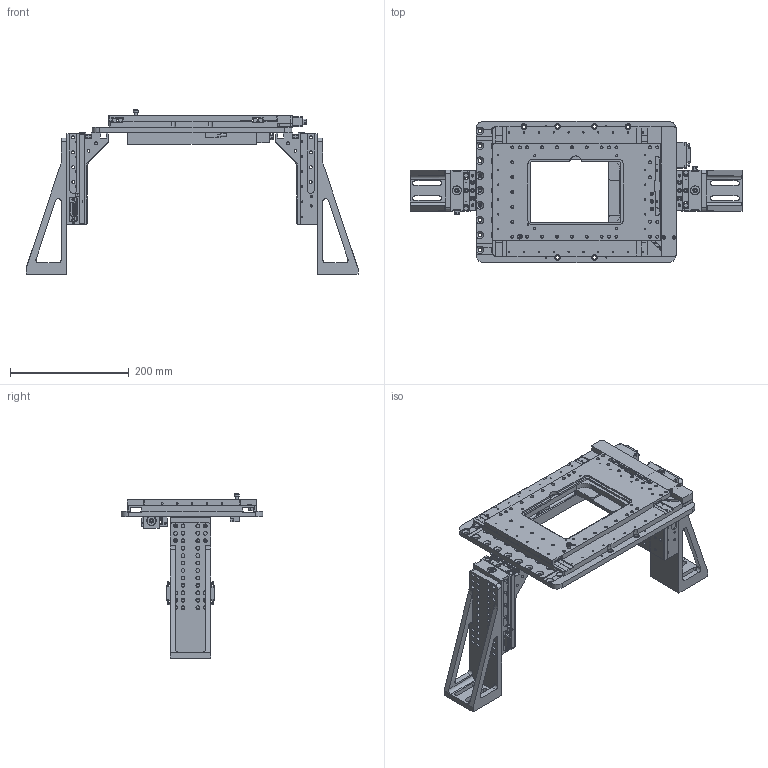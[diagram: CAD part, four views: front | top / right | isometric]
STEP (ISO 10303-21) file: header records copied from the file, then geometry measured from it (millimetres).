
FILE_DESCRIPTION (( 'STEP AP214' ), '1' );
FILE_NAME ('S551-22XXX WITH DUAL-LS-50-FTP-K2 (CATALOG MODEL).STEP', '2021-11-03T17:52:05', ( '' ), ( '' ), 'SwSTEP 2.0', 'SolidWorks 2020', '' );
FILE_SCHEMA (( 'AUTOMOTIVE_DESIGN' ));
Length unit declared in the file: inch
Products named in the file (1): S551-22XXX WITH DUAL-LS-50-FTP-K2 (CATALOG MODEL)
Bounding box: 558.17 x 238.25 x 276.22 mm (x, y, z)
Surface area: 641947.8 mm2 (no closed solid volume)
Topology: 0 solids, 103 shells, 1332 faces, 5145 edges, 3809 vertices
Faces by surface type: cylinder 653, plane 605, cone 66, bspline 8
Full cylindrical faces by diameter (mm): 0.965 x25, 1.168 x24, 2.261 x79, 2.438 x7, 2.5 x48, 2.705 x14, 3.175 x3, 3.264 x2, 3.3 x6, 3.454 x1, 3.785 x6, 4 x1, 4.5 x1, 4.763 x1, 4.915 x3, 5 x77, 5.08 x4, 5.512 x7, 5.558 x4, 5.791 x8, 5.994 x4, 6 x1, 6.35 x40, 6.4 x72, 6.5 x1, 6.747 x8, 7 x1, 7.112 x2, 7.264 x8, 7.3 x4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
Entity records: 59999 total; most frequent: CARTESIAN_POINT 15499, DIRECTION 8963, ORIENTED_EDGE 6944, EDGE_CURVE 4486, VERTEX_POINT 3675, AXIS2_PLACEMENT_3D 3333, EDGE_LOOP 2784, VECTOR 2297
